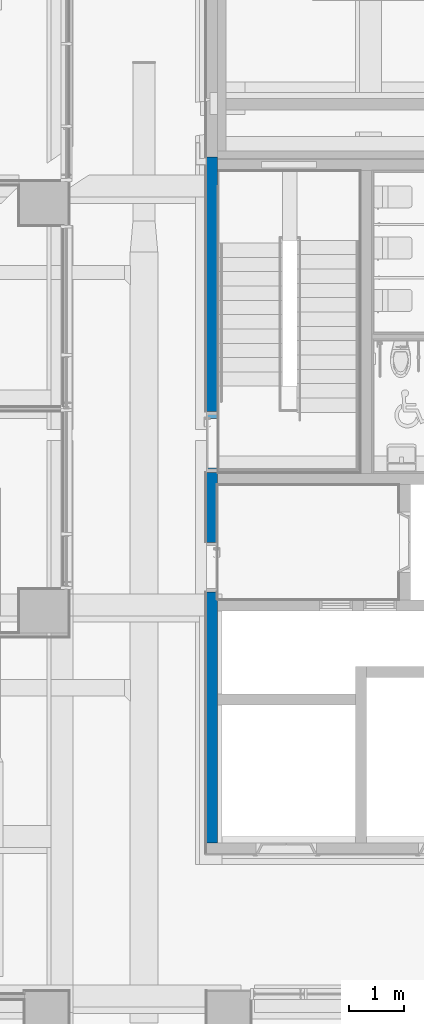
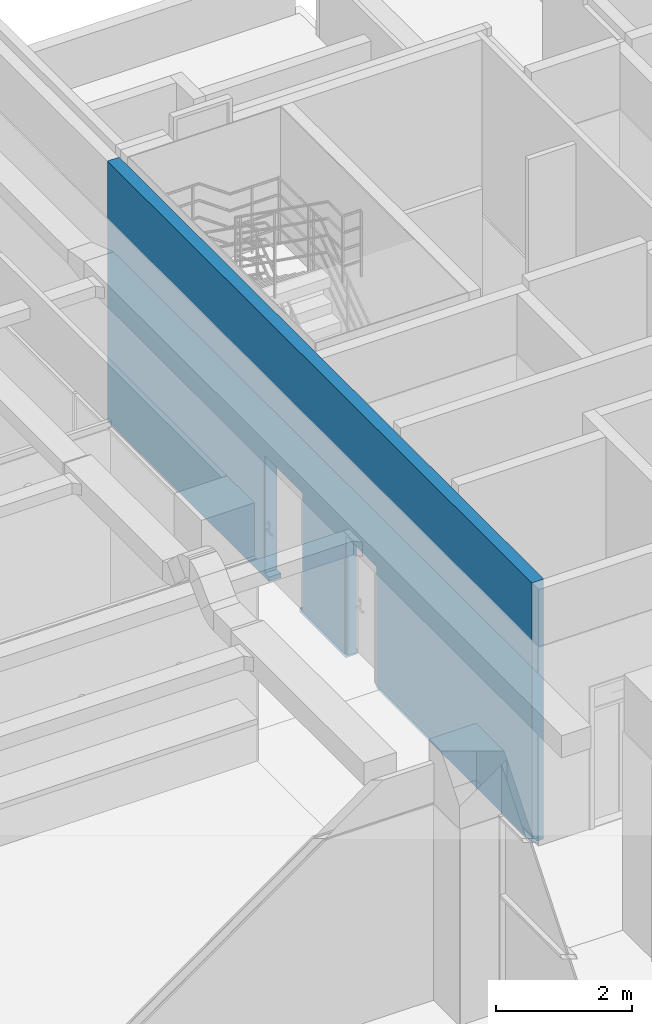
# One storey, part 63 of 100: 1 wall, 2 openings.
"""IFC2X3 building model written with IfcOpenShell, lengths in millimetres."""

from ifc_helpers import new_model, entity, si_unit, converted_unit, derived_unit, direction, frame, frame_2d, origin, place, context, subcontext, project, spatial, rectangle, extrude, faceted_brep, material, layer, layer_set, type_object, element, save


model = new_model("IFC2X3")

# Units and contexts
model_context = context("Model", 3, precision=0.01, world=origin(), true_north=direction((6.123031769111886e-17, 1.0)))
body_context = subcontext(model_context, "Body", "Model", "MODEL_VIEW")
ifc_project = project(units=[si_unit("LENGTHUNIT", "METRE", prefix="MILLI"), si_unit("AREAUNIT", "SQUARE_METRE"), si_unit("VOLUMEUNIT", "CUBIC_METRE"), converted_unit("PLANEANGLEUNIT", "DEGREE", entity("IfcRatioMeasure", 0.017453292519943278), si_unit("PLANEANGLEUNIT", "RADIAN"), dimensions=[0, 0, 0, 0, 0, 0, 0]), si_unit("MASSUNIT", "GRAM", prefix="KILO"), derived_unit("MASSDENSITYUNIT", [(si_unit("MASSUNIT", "GRAM", prefix="KILO"), 1), (si_unit("LENGTHUNIT", "METRE"), -3)]), derived_unit("MOMENTOFINERTIAUNIT", [(si_unit("LENGTHUNIT", "METRE"), 4)]), si_unit("TIMEUNIT", "SECOND"), si_unit("FREQUENCYUNIT", "HERTZ"), si_unit("THERMODYNAMICTEMPERATUREUNIT", "DEGREE_CELSIUS"), derived_unit("THERMALTRANSMITTANCEUNIT", [(si_unit("MASSUNIT", "GRAM", prefix="KILO"), 1), (si_unit("THERMODYNAMICTEMPERATUREUNIT", "KELVIN"), -1), (si_unit("TIMEUNIT", "SECOND"), -3)]), derived_unit("VOLUMETRICFLOWRATEUNIT", [(si_unit("LENGTHUNIT", "METRE"), 3), (si_unit("TIMEUNIT", "SECOND"), -1)]), derived_unit("MASSFLOWRATEUNIT", [(si_unit("MASSUNIT", "GRAM", prefix="KILO"), 1), (si_unit("TIMEUNIT", "SECOND"), -1)]), derived_unit("ROTATIONALFREQUENCYUNIT", [(si_unit("TIMEUNIT", "SECOND"), -1)]), si_unit("ELECTRICCURRENTUNIT", "AMPERE"), si_unit("ELECTRICVOLTAGEUNIT", "VOLT"), si_unit("POWERUNIT", "WATT"), si_unit("FORCEUNIT", "NEWTON", prefix="KILO"), si_unit("ILLUMINANCEUNIT", "LUX"), si_unit("LUMINOUSFLUXUNIT", "LUMEN"), si_unit("LUMINOUSINTENSITYUNIT", "CANDELA"), derived_unit("USERDEFINED", [(si_unit("MASSUNIT", "GRAM", prefix="KILO"), -1), (si_unit("LENGTHUNIT", "METRE"), -2), (si_unit("TIMEUNIT", "SECOND"), 3), (si_unit("LUMINOUSFLUXUNIT", "LUMEN"), 1)]), derived_unit("SOUNDPOWERUNIT", [(si_unit("MASSUNIT", "GRAM", prefix="KILO"), 1), (si_unit("LENGTHUNIT", "METRE"), 2), (si_unit("TIMEUNIT", "SECOND"), -3)]), derived_unit("SOUNDPRESSUREUNIT", [(si_unit("MASSUNIT", "GRAM", prefix="KILO"), 1), (si_unit("LENGTHUNIT", "METRE"), -1), (si_unit("TIMEUNIT", "SECOND"), -2)]), derived_unit("LINEARVELOCITYUNIT", [(si_unit("LENGTHUNIT", "METRE"), 1), (si_unit("TIMEUNIT", "SECOND"), -1)]), si_unit("PRESSUREUNIT", "PASCAL"), derived_unit("USERDEFINED", [(si_unit("LENGTHUNIT", "METRE"), -2), (si_unit("MASSUNIT", "GRAM", prefix="KILO"), 1), (si_unit("TIMEUNIT", "SECOND"), -2)]), derived_unit("LINEARFORCEUNIT", [(si_unit("MASSUNIT", "GRAM", prefix="KILO"), 1), (si_unit("LENGTHUNIT", "METRE"), 1), (si_unit("TIMEUNIT", "SECOND"), -2), (si_unit("LENGTHUNIT", "METRE"), -1)]), derived_unit("PLANARFORCEUNIT", [(si_unit("MASSUNIT", "GRAM", prefix="KILO"), 1), (si_unit("LENGTHUNIT", "METRE"), 1), (si_unit("TIMEUNIT", "SECOND"), -2), (si_unit("LENGTHUNIT", "METRE"), -2)])], contexts=[model_context])

# Site, building, storey
site_placement = place(None, frame((-14167.972527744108, -657.2125860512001, 0.0)))
site = spatial("IfcSite", under=ifc_project, at=site_placement, Name="Default", CompositionType="ELEMENT")
building_placement = place(site_placement, origin())
building = spatial("IfcBuilding", under=site, at=building_placement, Name="Sample Building", CompositionType="ELEMENT")
storey_placement = place(building_placement, origin())
storey = spatial("IfcBuildingStorey", under=building, at=storey_placement, Name="지상 1층", CompositionType="ELEMENT", Elevation=0.0)

# Wall, openings
ifc_material = material(Name="KBIMS-콘크리트")
ifc_layer = layer(ifc_material, 200.0)
ifc_layer_set = layer_set([ifc_layer], Name="기본 벽:WA111-철근콘크리트구조 벽 200mm_CW1")
wall_type = type_object("IfcWallType", Name="기본 벽:WA111-철근콘크리트구조 벽 200mm_CW1", PredefinedType="STANDARD", material=ifc_layer_set)
wall_placement = place(storey_placement, frame((30166.125814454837, 15753.302947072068, 0.0), z_axis=(0.0, 0.0, 1.0), x_axis=(0.0, 1.0, 0.0)))
wall = element("IfcWall", 1, at=wall_placement, inside=storey, type_object=wall_type, Name="기본 벽:WA111-철근콘크리트구조 벽 200mm_CW1", ObjectType="기본 벽:WA111-철근콘크리트구조 벽 200mm_CW1", context=body_context, shape_type="Brep", body=[
    faceted_brep([(12443.909348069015, -100.0, 4650.0), (12403.90965712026, -100.0, 4650.0), (12203.909360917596, -100.0, 4650.0), (6703.909364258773, -100.0, 4650.0), (6503.909364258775, -100.0, 4650.0), (4403.909669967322, -100.0, 4650.0), (4203.909360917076, -100.0, 4650.0), (2703.9093625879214, -100.0, 4650.0), (2503.9093625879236, -100.0, 4650.0), (3.909657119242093, -100.0, 4650.0), (0.0, -100.0, 4650.0), (0.0, -100.0, 4400.0), (0.0, -100.0, 0.0), (2503.9093625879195, -100.0, 0.0), (2703.9093625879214, -100.0, 0.0), (4203.909360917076, -100.0, 0.0), (4403.909360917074, -100.0, 0.0), (4553.874678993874, -100.0, 0.0), (4553.87467899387, -100.0, 80.0), (4421.891944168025, -100.0, 80.0), (4421.891944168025, -100.0, 3580.0), (6485.8919475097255, -100.0, 3580.0), (6485.8919475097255, -100.0, 80.0), (5453.8746789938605, -100.0, 80.0), (5453.8746789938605, -100.0, 0.0), (6803.874680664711, -100.0, 0.0), (6803.874680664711, -100.0, 80.0), (6723.874680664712, -100.0, 80.0), (6723.874680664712, -100.0, 2180.0), (7823.874680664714, -100.0, 2180.0), (7823.874680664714, -100.0, 80.0), (7703.8746806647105, -100.0, 80.0), (7703.8746806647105, -100.0, 0.0), (12443.909348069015, -100.0, 0.0), (0.0, 100.0, 4650.0), (3.909657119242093, 100.0, 4650.0), (4003.9096699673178, 100.0, 4650.0), (4403.909669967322, 100.0, 4650.0), (12403.90965712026, 100.0, 4650.0), (12443.909348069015, 100.0, 4650.0), (12443.909348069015, 100.0, 0.0), (11803.909360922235, 100.0, 0.0), (7703.8746806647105, 100.0, 0.0), (7703.8746806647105, 100.0, 80.0), (7823.874680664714, 100.0, 80.0), (7823.874680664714, 100.0, 2180.0), (6723.874680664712, 100.0, 2180.0), (6723.874680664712, 100.0, 80.0), (6803.874680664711, 100.0, 80.0), (6803.874680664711, 100.0, 0.0), (5453.8746789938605, 100.0, 0.0), (5453.8746789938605, 100.0, 80.0), (5453.874678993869, 100.0, 2180.0), (4553.874678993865, 100.0, 2180.0), (4553.874678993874, 100.0, 80.0), (4553.874678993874, 100.0, 0.0), (4403.909466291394, 100.0, 0.0), (0.0, 100.0, 0.0), (4553.874678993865, -82.0, 2180.0), (4553.874678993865, -82.0, 80.0), (5453.874678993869, -82.0, 2180.0), (5453.874678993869, -82.0, 80.0), (6485.8919475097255, -82.0, 3580.0), (4421.891944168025, -82.0, 3580.0), (4421.891944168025, -82.0, 80.0), (6485.8919475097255, -82.0, 80.0)], [[[0, 1, 2, 3, 4, 5, 6, 7, 8, 9, 10, 11, 12, 13, 14, 15, 16, 17, 18, 19, 20, 21, 22, 23, 24, 25, 26, 27, 28, 29, 30, 31, 32, 33]], [[34, 35, 36, 37, 38, 39, 40, 41, 42, 43, 44, 45, 46, 47, 48, 49, 50, 51, 52, 53, 54, 55, 56, 57]], [[12, 57, 56, 55, 17, 16, 15, 14, 13]], [[33, 40, 39, 0]], [[10, 9, 8, 7, 6, 5, 4, 3, 2, 1, 0, 39, 38, 37, 36, 35, 34]], [[57, 12, 11, 10, 34]], [[17, 55, 54, 53, 58, 59, 18]], [[53, 52, 60, 58]], [[50, 24, 23, 61, 60, 52, 51]], [[28, 27, 47, 46]], [[29, 28, 46, 45]], [[30, 29, 45, 44]], [[47, 27, 26, 48]], [[32, 31, 43, 42]], [[26, 25, 49, 48]], [[62, 63, 64, 59, 58, 60, 61, 65]], [[59, 64, 19, 18]], [[62, 65, 22, 21]], [[64, 63, 20, 19]], [[63, 62, 21, 20]], [[65, 61, 23, 22]], [[30, 44, 43, 31]], [[24, 50, 49, 25]], [[40, 33, 32, 42, 41]]]),
])
opening_1_placement = place(wall_placement, frame((6723.874680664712, -100.0, 80.0)))
element("IfcOpeningElement", 2, at=opening_1_placement, cuts=wall, Name="DR111-외여닫이문(철재, 일반):DR111-외여닫이문(철재, 일반) 1100x2100mm 2:1", ObjectType="Opening", context=body_context, shape_type="SweptSolid", body=[
    extrude(rectangle(XDim=2099.999999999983, YDim=1100.0, at=frame_2d((1049.9999999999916, 550.0000000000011), x_axis=(1.0, 0.0))), frame((0.0, 0.0, 0.0), z_axis=(0.0, 1.0, 0.0), x_axis=(0.0, 0.0, 1.0)), (0.0, 0.0, 1.0), 200.0),
])
opening_2_placement = place(wall_placement, frame((5453.874678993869, 100.0, 80.0)))
element("IfcOpeningElement", 3, at=opening_2_placement, cuts=wall, Name="DR111-외여닫이문(철재, 일반):DR111-외여닫이문(철재, 일반) 900x2100mm:1", ObjectType="Opening", context=body_context, shape_type="SweptSolid", body=[
    extrude(rectangle(XDim=2099.999999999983, YDim=900.0000000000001, at=frame_2d((1049.9999999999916, 450.00000000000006), x_axis=(1.0, 0.0))), frame((0.0, 0.0, 0.0), z_axis=(0.0, -1.0, 0.0), x_axis=(0.0, 0.0, 1.0)), (0.0, 0.0, 1.0), 200.0),
])

save(model, "model.ifc")
